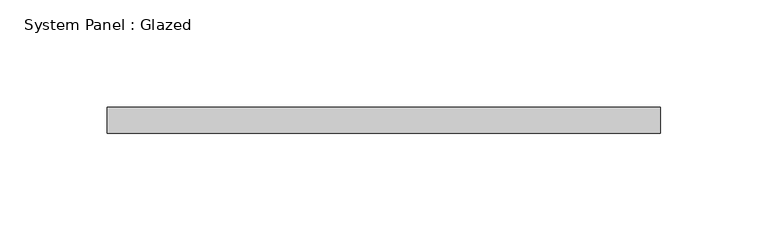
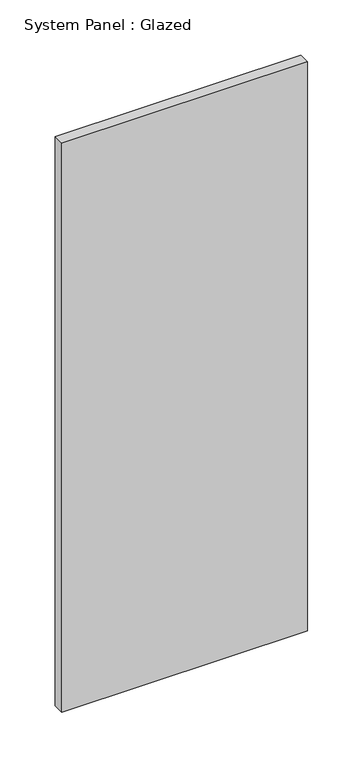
"""IFC4 building model written with IfcOpenShell, lengths in millimetres: plate geometry, System Panel : Glazed."""

from ifc_helpers import new_model, si_unit, origin, origin_with_axes, place, context, project, spatial, polyline, outline, extrude, source, transform, mapped, element, save


def system_panel_glazed_07a81bf9(model_context):
    return source(origin(), model_context, "Body", "SweptSolid", [
        extrude(outline(polyline([(128.7405078, 4.0), (-128.7405078, 4.0), (-128.7405078, 16.0), (128.7405078, 16.0), (128.7405078, 4.0)])), origin_with_axes(), (0.0, 0.0, 1.0), 630.0),
    ])


if __name__ == "__main__":
    model = new_model("IFC4")
    model_context = context("Model", 3, world=origin())
    ifc_project = project(units=[si_unit("LENGTHUNIT", "METRE", prefix="MILLI")], contexts=[model_context])
    site = spatial("IfcSite", under=ifc_project)
    building = spatial("IfcBuilding", under=site)
    placement = place(None, origin())
    system_panel_glazed_shape = system_panel_glazed_07a81bf9(model_context)
    element("IfcPlate", 1, ObjectType="System Panel : Glazed", at=placement, inside=building, context=model_context, shape_type="MappedRepresentation", body=[
        mapped(system_panel_glazed_shape, transform((0.0, 0.0, 0.0), x_axis=(1.0, 0.0, 0.0), y_axis=(0.0, 1.0, 0.0), z_axis=(0.0, 0.0, 1.0))),
    ])
    save(model, "model.ifc")
